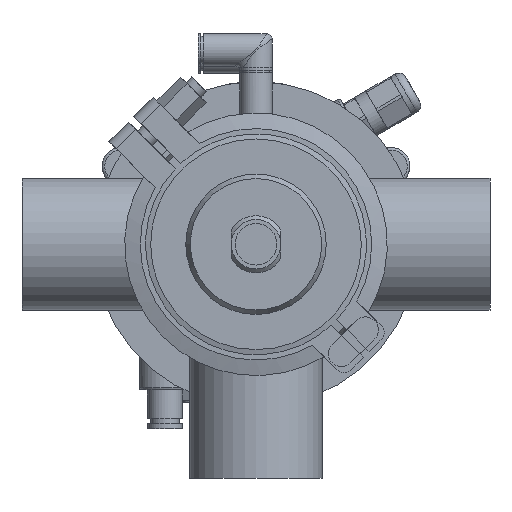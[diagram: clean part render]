
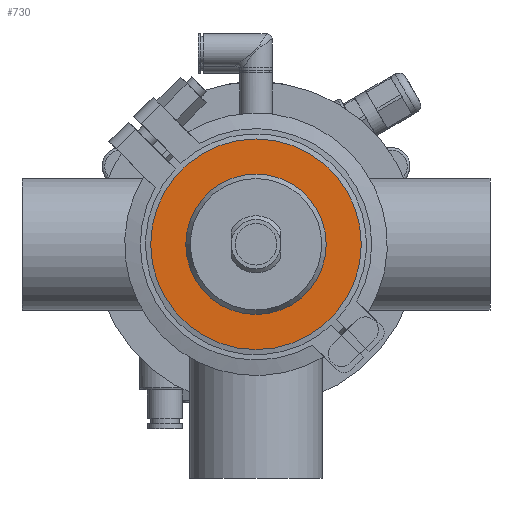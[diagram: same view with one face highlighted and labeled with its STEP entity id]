
A CAD part, front view. The second image highlights one B-rep face of the part: STEP entity #730.
In plain terms, the highlighted planar face has unit normal (0, -1, 0).
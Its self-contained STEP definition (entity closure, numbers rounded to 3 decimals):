
#730 = ADVANCED_FACE ( 'NONE', ( #59979, #11566 ), #60604, .T. ) ;
#3331 = CARTESIAN_POINT ( 'NONE',  ( -40.5, -13., 0. ) ) ;
#4544 = VERTEX_POINT ( 'NONE', #47872 ) ;
#5621 = EDGE_LOOP ( 'NONE', ( #34410 ) ) ;
#6278 = VERTEX_POINT ( 'NONE', #44854 ) ;
#9041 = DIRECTION ( 'NONE',  ( 0., -1., 0. ) ) ;
#11566 = FACE_OUTER_BOUND ( 'NONE', #42568, .T. ) ;
#18146 = DIRECTION ( 'NONE',  ( 0., 0., -1. ) ) ;
#25627 = EDGE_CURVE ( 'NONE', #6278, #6278, #27032, .T. ) ;
#27032 = CIRCLE ( 'NONE', #45295, 40.5 ) ;
#29415 = CARTESIAN_POINT ( 'NONE',  ( 0., -13., 0. ) ) ;
#32996 = CARTESIAN_POINT ( 'NONE',  ( 0., -13., 0. ) ) ;
#34410 = ORIENTED_EDGE ( 'NONE', *, *, #46152, .T. ) ;
#34502 = DIRECTION ( 'NONE',  ( 0., 1., 0. ) ) ;
#35243 = ORIENTED_EDGE ( 'NONE', *, *, #25627, .F. ) ;
#38956 = CIRCLE ( 'NONE', #55166, 27. ) ;
#42568 = EDGE_LOOP ( 'NONE', ( #35243 ) ) ;
#44854 = CARTESIAN_POINT ( 'NONE',  ( 0., -13., 40.5 ) ) ;
#45295 = AXIS2_PLACEMENT_3D ( 'NONE', #29415, #34502, #53780 ) ;
#46152 = EDGE_CURVE ( 'NONE', #4544, #4544, #38956, .T. ) ;
#46623 = DIRECTION ( 'NONE',  ( 0., 1., 0. ) ) ;
#47849 = AXIS2_PLACEMENT_3D ( 'NONE', #3331, #9041, #18146 ) ;
#47872 = CARTESIAN_POINT ( 'NONE',  ( 0., -13., 27. ) ) ;
#52620 = DIRECTION ( 'NONE',  ( 0., 0., 1. ) ) ;
#53780 = DIRECTION ( 'NONE',  ( 0., 0., 1. ) ) ;
#55166 = AXIS2_PLACEMENT_3D ( 'NONE', #32996, #46623, #52620 ) ;
#59979 = FACE_BOUND ( 'NONE', #5621, .T. ) ;
#60604 = PLANE ( 'NONE',  #47849 ) ;
